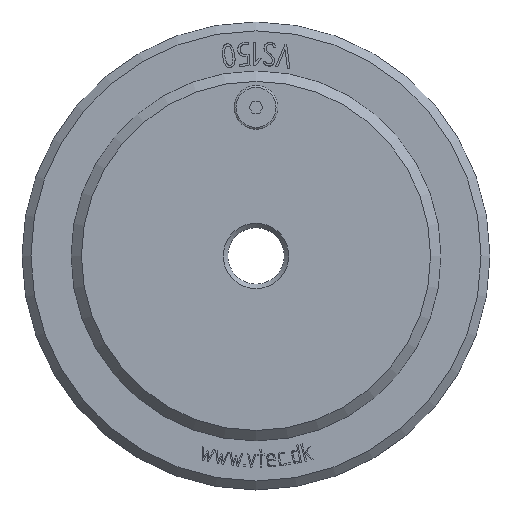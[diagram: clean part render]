
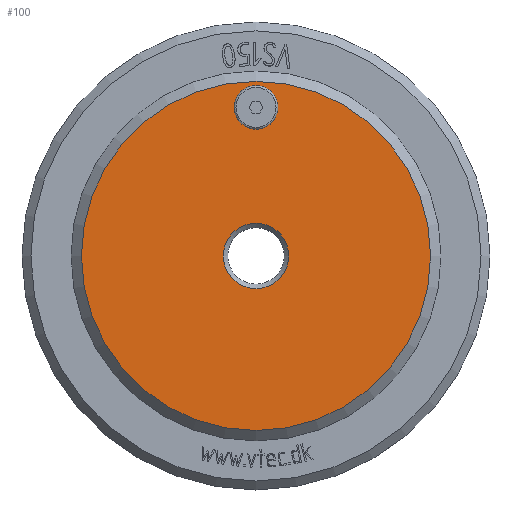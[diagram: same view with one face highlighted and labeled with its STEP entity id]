
A CAD part, top view. The second image highlights one B-rep face of the part: STEP entity #100.
In plain terms, the highlighted planar face has unit normal (0, 0, 1).
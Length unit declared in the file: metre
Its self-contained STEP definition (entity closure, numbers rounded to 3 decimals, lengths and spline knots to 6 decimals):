
#100 = ADVANCED_FACE( '', ( #328, #329, #330 ), #331, .F. );
#328 = FACE_OUTER_BOUND( '', #738, .T. );
#329 = FACE_BOUND( '', #739, .T. );
#330 = FACE_BOUND( '', #740, .T. );
#331 = PLANE( '', #741 );
#738 = EDGE_LOOP( '', ( #1569 ) );
#739 = EDGE_LOOP( '', ( #1570 ) );
#740 = EDGE_LOOP( '', ( #1571 ) );
#741 = AXIS2_PLACEMENT_3D( '', #1572, #1573, #1574 );
#1569 = ORIENTED_EDGE( '', *, *, #3031, .T. );
#1570 = ORIENTED_EDGE( '', *, *, #3032, .F. );
#1571 = ORIENTED_EDGE( '', *, *, #2993, .F. );
#1572 = CARTESIAN_POINT( '', ( 0.05875, 0., 0.00975 ) );
#1573 = DIRECTION( '', ( 0., 0., -1. ) );
#1574 = DIRECTION( '', ( -1., 0., 0. ) );
#2993 = EDGE_CURVE( '', #3556, #3556, #3557, .F. );
#3031 = EDGE_CURVE( '', #3622, #3622, #3623, .T. );
#3032 = EDGE_CURVE( '', #3624, #3624, #3625, .T. );
#3556 = VERTEX_POINT( '', #4879 );
#3557 = CIRCLE( '', #4880, 0.00735 );
#3622 = VERTEX_POINT( '', #5080 );
#3623 = CIRCLE( '', #5081, 0.05875 );
#3624 = VERTEX_POINT( '', #5082 );
#3625 = CIRCLE( '', #5083, 0.011 );
#4879 = CARTESIAN_POINT( '', ( -0.00735, 0.05, 0.00975 ) );
#4880 = AXIS2_PLACEMENT_3D( '', #5942, #5943, #5944 );
#5080 = CARTESIAN_POINT( '', ( 0.05875, 0., 0.00975 ) );
#5081 = AXIS2_PLACEMENT_3D( '', #5982, #5983, #5984 );
#5082 = CARTESIAN_POINT( '', ( 0.011, 0., 0.00975 ) );
#5083 = AXIS2_PLACEMENT_3D( '', #5985, #5986, #5987 );
#5942 = CARTESIAN_POINT( '', ( 0., 0.05, 0.00975 ) );
#5943 = DIRECTION( '', ( 0., 0., -1. ) );
#5944 = DIRECTION( '', ( -1., 0., 0. ) );
#5982 = CARTESIAN_POINT( '', ( 0., 0., 0.00975 ) );
#5983 = DIRECTION( '', ( 0., 0., 1. ) );
#5984 = DIRECTION( '', ( 1., 0., 0. ) );
#5985 = CARTESIAN_POINT( '', ( 0., 0., 0.00975 ) );
#5986 = DIRECTION( '', ( 0., 0., 1. ) );
#5987 = DIRECTION( '', ( 1., 0., 0. ) );
